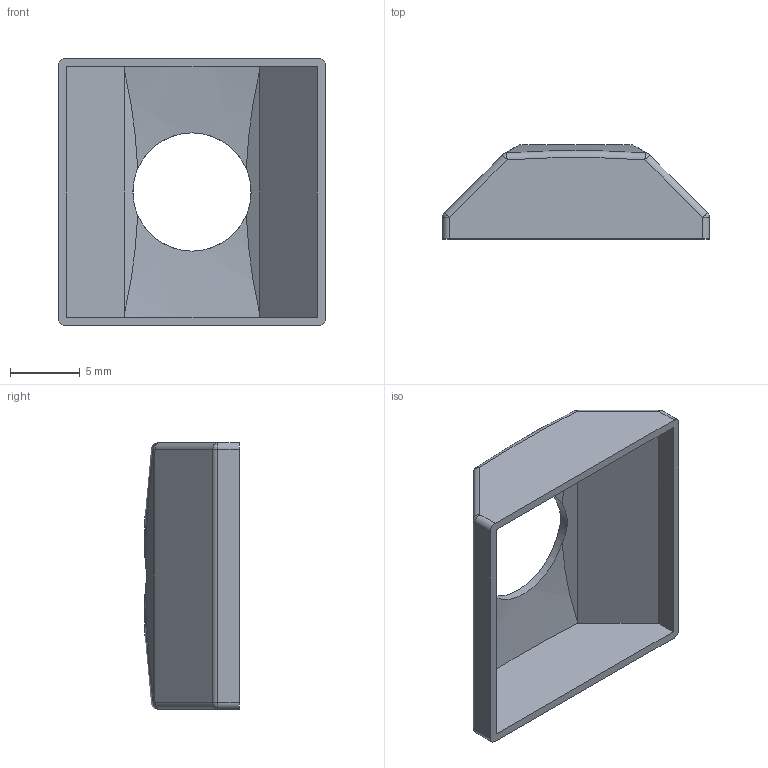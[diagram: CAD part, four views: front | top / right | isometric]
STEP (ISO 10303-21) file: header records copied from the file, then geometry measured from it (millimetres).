
FILE_DESCRIPTION(/* description */ ('Supporto per inserto N11 cava 10'),/* implementation_level */ '2;1');
FILE_NAME(/* name */ 'C:\omnitec\Desktop\Inserti\N11-10-01.stp',/* time_stamp */ '2021-02-18T17:04:41+01:00',/* author */ ('omnitec'),/* organization */ ('Microsoft'),/* preprocessor_version */ 'ST-DEVELOPER v18.1',/* originating_system */ 'Autodesk Inventor 2021',/* authorisation */ '');
FILE_SCHEMA (('AUTOMOTIVE_DESIGN { 1 0 10303 214 3 1 1 }'));
Length unit declared in the file: millimetre
Products named in the file (1): N11-10-01
Bounding box: 19.2 x 6.79 x 19.2 mm (x, y, z)
Volume: 359.9 mm3; surface area: 1259.6 mm2
Topology: 1 solids, 1 shells, 56 faces, 129 edges, 74 vertices
Faces by surface type: plane 17, sphere 16, cylinder 13, torus 10
Full cylindrical faces by diameter (mm): 8.5 x1
Entity records: 1640 total; most frequent: DIRECTION 319, CARTESIAN_POINT 278, ORIENTED_EDGE 258, AXIS2_PLACEMENT_3D 137, EDGE_CURVE 129, CIRCLE 76, VERTEX_POINT 74, EDGE_LOOP 57
